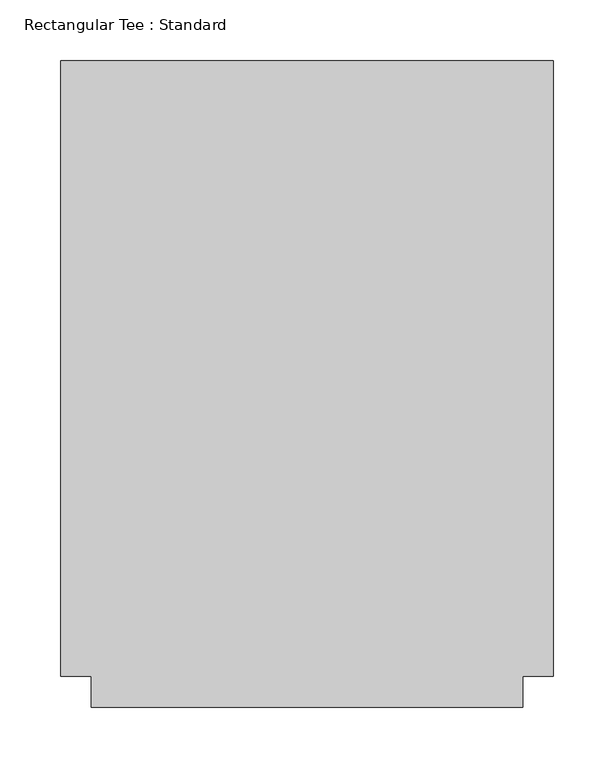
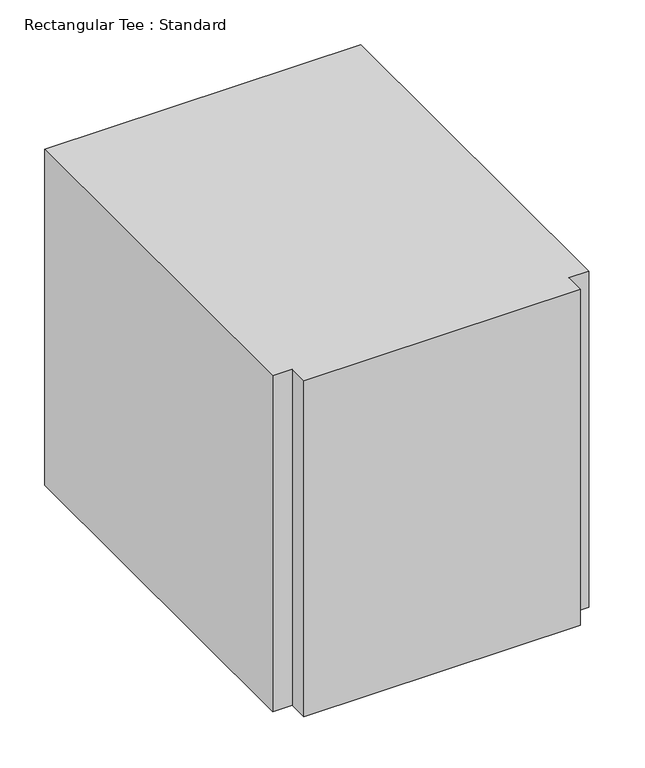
"""IFC4 building model written with IfcOpenShell, lengths in millimetres: duct fitting geometry, Rectangular Tee : Standard."""

from ifc_helpers import new_model, si_unit, frame, origin, place, context, project, spatial, polyline, outline, extrude, source, transform, mapped, element, save


def rectangular_tee_standard_dc794bcd(model_context):
    return source(origin(), model_context, "Body", "SweptSolid", [
        extrude(outline(polyline([(-203.2, -254.0), (-203.2, 254.0), (203.2, 254.0), (203.2, -254.0), (177.8, -254.0), (177.8, -279.4), (-177.8, -279.4), (-177.8, -254.0), (-203.2, -254.0)])), frame((0.0, 0.0, -228.6), z_axis=(0.0, 0.0, 1.0), x_axis=(1.0, 0.0, 0.0)), (0.0, 0.0, 1.0), 457.2),
    ])


if __name__ == "__main__":
    model = new_model("IFC4")
    model_context = context("Model", 3, world=origin())
    ifc_project = project(units=[si_unit("LENGTHUNIT", "METRE", prefix="MILLI")], contexts=[model_context])
    site = spatial("IfcSite", under=ifc_project)
    building = spatial("IfcBuilding", under=site)
    placement = place(None, origin())
    rectangular_tee_standard_shape = rectangular_tee_standard_dc794bcd(model_context)
    element("IfcDuctFitting", 1, ObjectType="Rectangular Tee : Standard", at=placement, inside=building, context=model_context, shape_type="MappedRepresentation", body=[
        mapped(rectangular_tee_standard_shape, transform((0.0, 0.0, 0.0), x_axis=(1.0, 0.0, 0.0), y_axis=(0.0, 1.0, 0.0), z_axis=(0.0, 0.0, 1.0))),
    ])
    save(model, "model.ifc")
